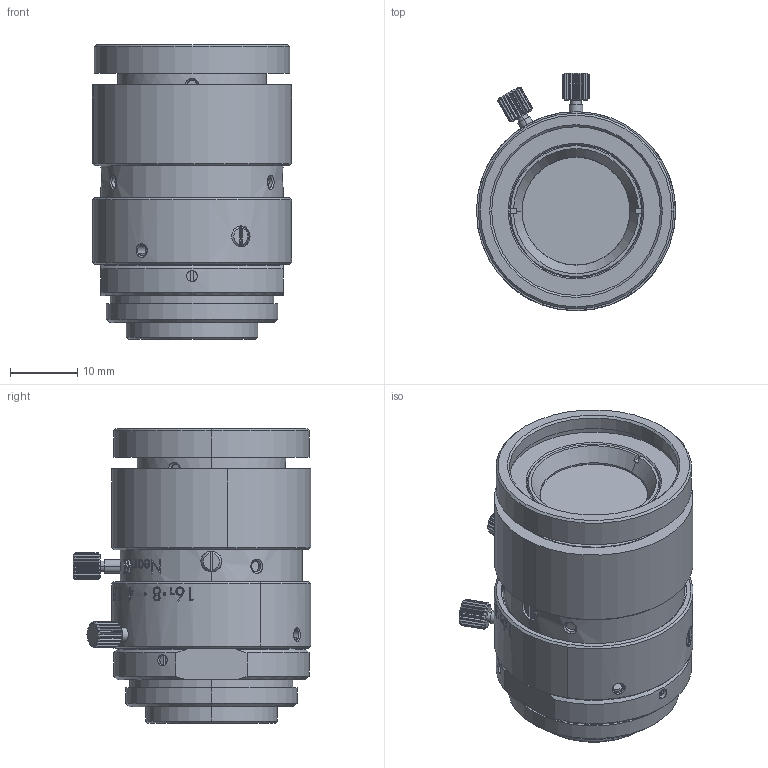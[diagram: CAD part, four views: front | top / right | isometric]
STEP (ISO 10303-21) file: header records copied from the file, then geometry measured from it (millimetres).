
FILE_DESCRIPTION (( 'STEP AP203' ), '1' );
FILE_NAME ('3d_ml-m0822ur_a004.STEP', '2019-02-28T02:13:21', ( '' ), ( '' ), 'SwSTEP 2.0', 'SolidWorks 2014', '' );
FILE_SCHEMA (( 'CONFIG_CONTROL_DESIGN' ));
Length unit declared in the file: millimetre
Products named in the file (1): 3d_ml-m0822ur_a004
Bounding box: 29.5 x 35.24 x 43.61 mm (x, y, z)
Volume: 24427.6 mm3; surface area: 7121.9 mm2
Topology: 1 solids, 9 shells, 983 faces, 2600 edges, 1705 vertices
Faces by surface type: cylinder 356, plane 304, bspline 222, cone 101
Entity records: 52285 total; most frequent: CARTESIAN_POINT 30660, ORIENTED_EDGE 5188, DIRECTION 3327, EDGE_CURVE 2594, VERTEX_POINT 1705, B_SPLINE_CURVE_WITH_KNOTS 1310, AXIS2_PLACEMENT_3D 1281, EDGE_LOOP 1069
